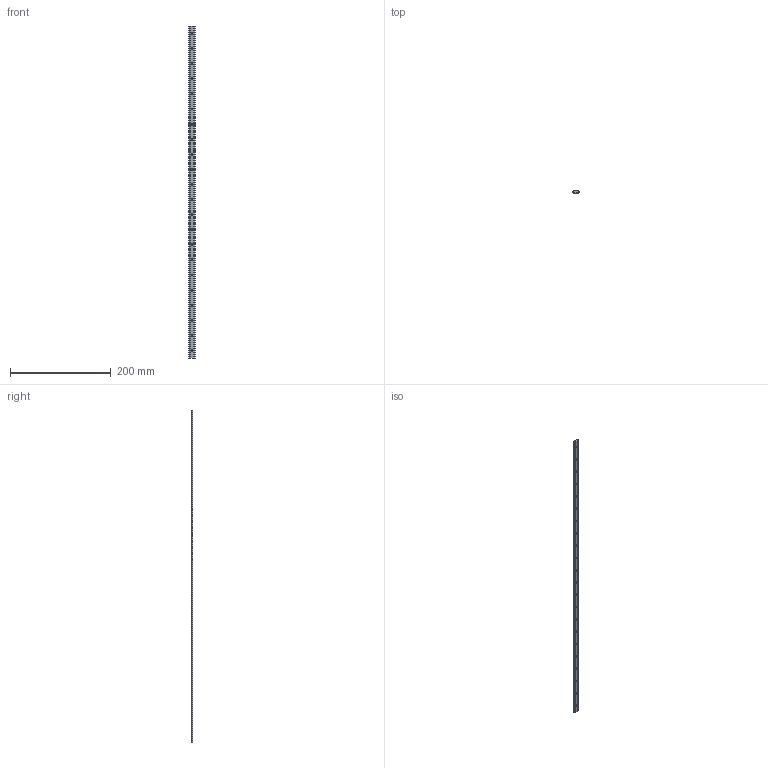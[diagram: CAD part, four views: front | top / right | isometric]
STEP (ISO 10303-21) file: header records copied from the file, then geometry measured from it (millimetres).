
FILE_DESCRIPTION(('STEP AP203'),'1');
FILE_NAME('//192.168.1.1/share/s-4 技術開発/s-4-4_CAD/s-4-4-6_見直し、確認済み/014 修正済み(済)/GF_TOP/GF-12N-660.step','2022-03-14T00:54:06',(' '),(' '),'Spatial InterOp 3D',' ',' ');
FILE_SCHEMA(('CONFIG_CONTROL_DESIGN'));
Length unit declared in the file: millimetre
Products named in the file (1): 1
Bounding box: 11.96 x 3.2 x 660 mm (x, y, z)
Volume: 20396.9 mm3; surface area: 18580.9 mm2
Topology: 1 solids, 1 shells, 80 faces, 256 edges, 178 vertices
Faces by surface type: cone 44, cylinder 26, plane 10
Full cylindrical faces by diameter (mm): 3.5 x22
Entity records: 2100 total; most frequent: DIRECTION 382, CARTESIAN_POINT 317, ORIENTED_EDGE 248, EDGE_LOOP 190, AXIS2_PLACEMENT_3D 177, EDGE_CURVE 124, VERTEX_POINT 112, FACE_OUTER_BOUND 102
